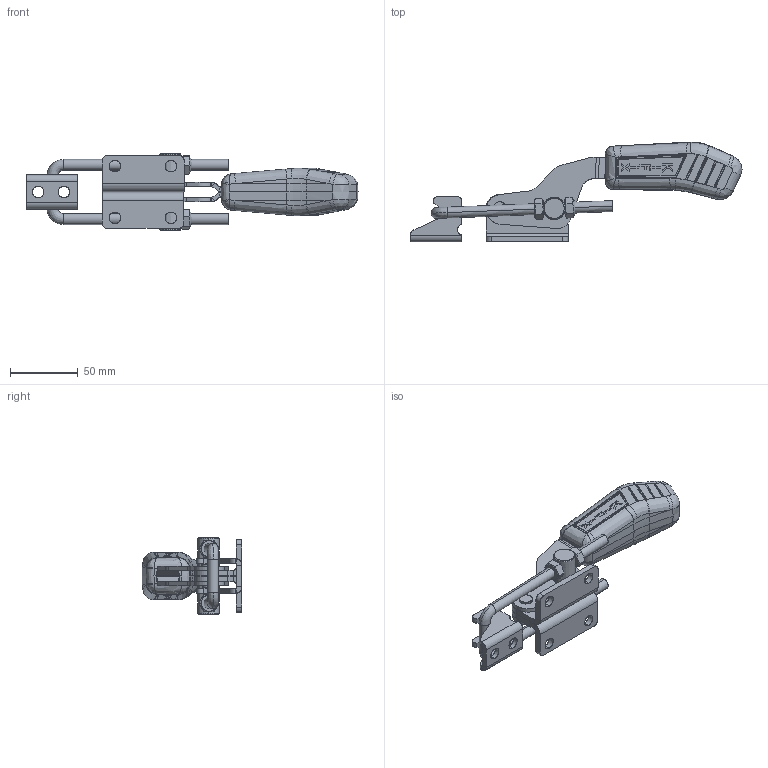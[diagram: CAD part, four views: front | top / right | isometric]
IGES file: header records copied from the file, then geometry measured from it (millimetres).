
Start section: SolidWorks IGES file using analytic representation for surfaces
Global section: file name: C:\Projetos\Grampos\KF-143\KF-143 D\KF-143 D.IGS; native system: SolidWorks 2015; preprocessor: SolidWorks 2015; author: Ricardo; date: 170720.085027; units: millimetre
Bounding box: 244.82 x 73.67 x 56.5 mm (x, y, z)
Surface area: 64420.8 mm2 (no closed solid volume)
Topology: 0 solids, 0 shells, 666 faces, 7370 edges, 7345 vertices
Faces by surface type: bspline 412, revolution 254
